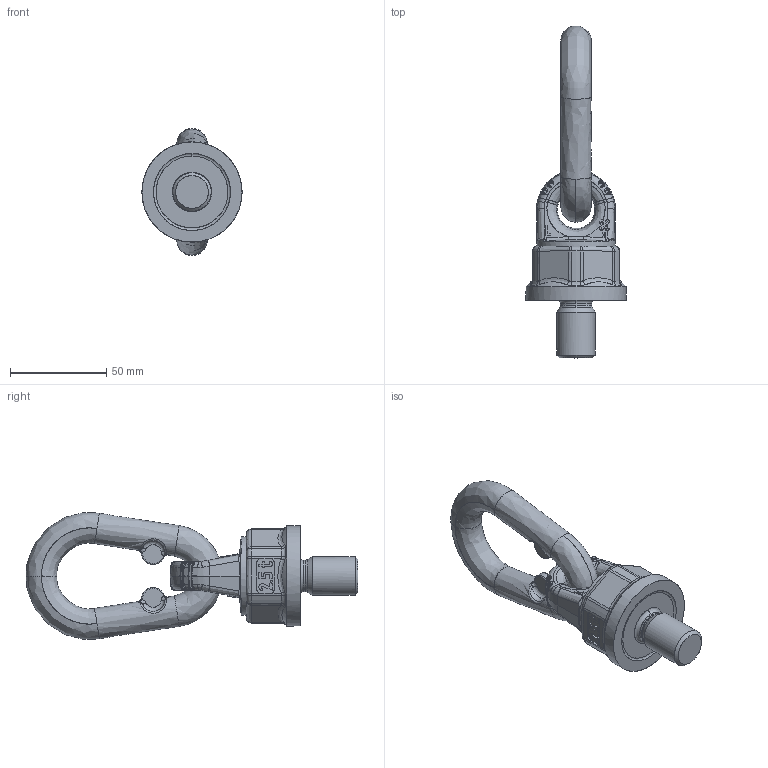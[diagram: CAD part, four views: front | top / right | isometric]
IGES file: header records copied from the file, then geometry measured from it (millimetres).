
Global section: file name: C:\IDEAS\IDEAS-DATEN\Temp\TP2.5_M20x30_senkrecht.igs; preprocessor: I-DEAS 3D IGES Translator 11; date: 20071107.114910; units: millimetre
Bounding box: 52 x 172.39 x 65.97 mm (x, y, z)
Surface area: 25473.8 mm2 (no closed solid volume)
Topology: 0 solids, 0 shells, 575 faces, 2978 edges, 2924 vertices
Faces by surface type: bspline 575
